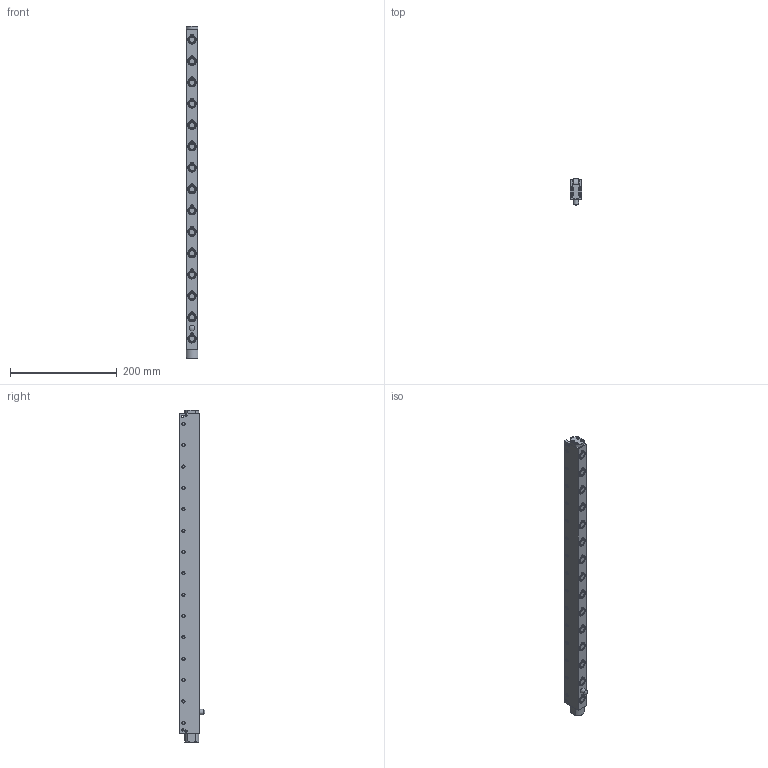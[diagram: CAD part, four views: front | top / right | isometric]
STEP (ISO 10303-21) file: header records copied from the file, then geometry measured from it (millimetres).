
FILE_DESCRIPTION(/* description */ (''),/* implementation_level */ '2;1');
FILE_NAME(/* name */ 'S:\EASCN Vault\Designs\Standard Part\DIE LIFTERS\EHR\EHR- 3D step\EHR22 - 3D step complete serie\EHR22-15.stp',/* time_stamp */ '2019-07-30T16:19:26+08:00',/* author */ ('yue.yang'),/* organization */ (''),/* preprocessor_version */ 'ST-DEVELOPER v17',/* originating_system */ 'Autodesk Inventor 2019',/* authorisation */ '');
FILE_SCHEMA (('AUTOMOTIVE_DESIGN { 1 0 10303 214 3 1 1 }'));
Length unit declared in the file: millimetre
Products named in the file (1): EHR22-15_Shrinkwrap_1
Bounding box: 21.8 x 48.05 x 622 mm (x, y, z)
Volume: 377931.6 mm3; surface area: 148214.4 mm2
Topology: 2 solids, 2 shells, 983 faces, 2789 edges, 1938 vertices
Faces by surface type: cylinder 326, plane 284, cone 178, torus 164, sphere 31
Full cylindrical faces by diameter (mm): 3 x9, 3.2 x8, 4 x8, 5 x60, 6 x24, 8.566 x1, 10 x3, 11 x15, 12.5 x30, 13.4 x15, 13.8 x15, 15.95 x30, 16 x44
Entity records: 36044 total; most frequent: CARTESIAN_POINT 8195, DIRECTION 6171, ORIENTED_EDGE 5532, EDGE_CURVE 2766, AXIS2_PLACEMENT_3D 2722, VERTEX_POINT 1938, CIRCLE 1738, EDGE_LOOP 1182
